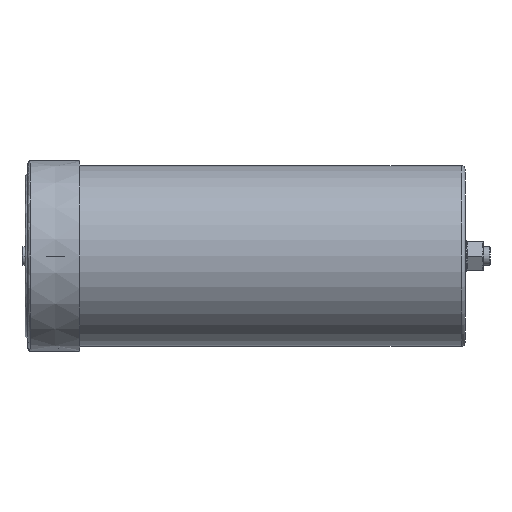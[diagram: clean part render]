
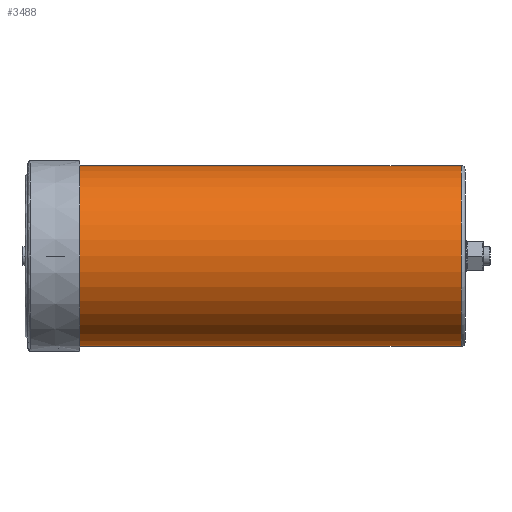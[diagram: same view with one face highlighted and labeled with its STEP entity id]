
A CAD part, left-side view. The second image highlights one B-rep face of the part: STEP entity #3488.
In plain terms, the highlighted cylindrical face has radius 58 mm (diameter 116 mm), a partial arc.
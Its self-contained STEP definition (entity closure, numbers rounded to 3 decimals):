
#86 = ORIENTED_EDGE ( 'NONE', *, *, #12610, .F. ) ;
#495 = VERTEX_POINT ( 'NONE', #14832 ) ;
#603 = CARTESIAN_POINT ( 'NONE',  ( 0., 0., 0. ) ) ;
#809 = CARTESIAN_POINT ( 'NONE',  ( 0., -274.9, 0. ) ) ;
#2318 = CIRCLE ( 'NONE', #4563, 58. ) ;
#3001 = FACE_OUTER_BOUND ( 'NONE', #4958, .T. ) ;
#3212 = CIRCLE ( 'NONE', #19282, 58. ) ;
#3488 = ADVANCED_FACE ( 'NONE', ( #3001 ), #4748, .T. ) ;
#4063 = VERTEX_POINT ( 'NONE', #7298 ) ;
#4563 = AXIS2_PLACEMENT_3D ( 'NONE', #603, #7174, #14902 ) ;
#4748 = CYLINDRICAL_SURFACE ( 'NONE', #16113, 58. ) ;
#4958 = EDGE_LOOP ( 'NONE', ( #13675, #86, #5055, #7571 ) ) ;
#5055 = ORIENTED_EDGE ( 'NONE', *, *, #17832, .T. ) ;
#5605 = CARTESIAN_POINT ( 'NONE',  ( 0., -277.4, 0. ) ) ;
#7058 = DIRECTION ( 'NONE',  ( 0., -1., 0. ) ) ;
#7174 = DIRECTION ( 'NONE',  ( 0., 1., 0. ) ) ;
#7261 = VECTOR ( 'NONE', #9118, 1000. ) ;
#7298 = CARTESIAN_POINT ( 'NONE',  ( 0., 0., 58. ) ) ;
#7571 = ORIENTED_EDGE ( 'NONE', *, *, #16382, .T. ) ;
#8750 = LINE ( 'NONE', #11819, #7261 ) ;
#9118 = DIRECTION ( 'NONE',  ( 0., -1., 0. ) ) ;
#9313 = VERTEX_POINT ( 'NONE', #17950 ) ;
#9334 = VERTEX_POINT ( 'NONE', #11766 ) ;
#11766 = CARTESIAN_POINT ( 'NONE',  ( 0., -274.9, 58. ) ) ;
#11819 = CARTESIAN_POINT ( 'NONE',  ( 0., -277.4, 58. ) ) ;
#12274 = DIRECTION ( 'NONE',  ( 0., -1., 0. ) ) ;
#12610 = EDGE_CURVE ( 'NONE', #9313, #4063, #2318, .T. ) ;
#12709 = EDGE_CURVE ( 'NONE', #4063, #9334, #8750, .T. ) ;
#13675 = ORIENTED_EDGE ( 'NONE', *, *, #12709, .F. ) ;
#14832 = CARTESIAN_POINT ( 'NONE',  ( 0., -274.9, -58. ) ) ;
#14902 = DIRECTION ( 'NONE',  ( 0., 0., -1. ) ) ;
#15360 = CARTESIAN_POINT ( 'NONE',  ( 0., -277.4, -58. ) ) ;
#16113 = AXIS2_PLACEMENT_3D ( 'NONE', #5605, #7058, #19757 ) ;
#16382 = EDGE_CURVE ( 'NONE', #495, #9334, #3212, .T. ) ;
#16627 = DIRECTION ( 'NONE',  ( 0., 1., 0. ) ) ;
#17832 = EDGE_CURVE ( 'NONE', #9313, #495, #19794, .T. ) ;
#17950 = CARTESIAN_POINT ( 'NONE',  ( 0., 0., -58. ) ) ;
#18423 = DIRECTION ( 'NONE',  ( 0., 0., -1. ) ) ;
#18799 = VECTOR ( 'NONE', #12274, 1000. ) ;
#19282 = AXIS2_PLACEMENT_3D ( 'NONE', #809, #16627, #18423 ) ;
#19757 = DIRECTION ( 'NONE',  ( 0., 0., -1. ) ) ;
#19794 = LINE ( 'NONE', #15360, #18799 ) ;
